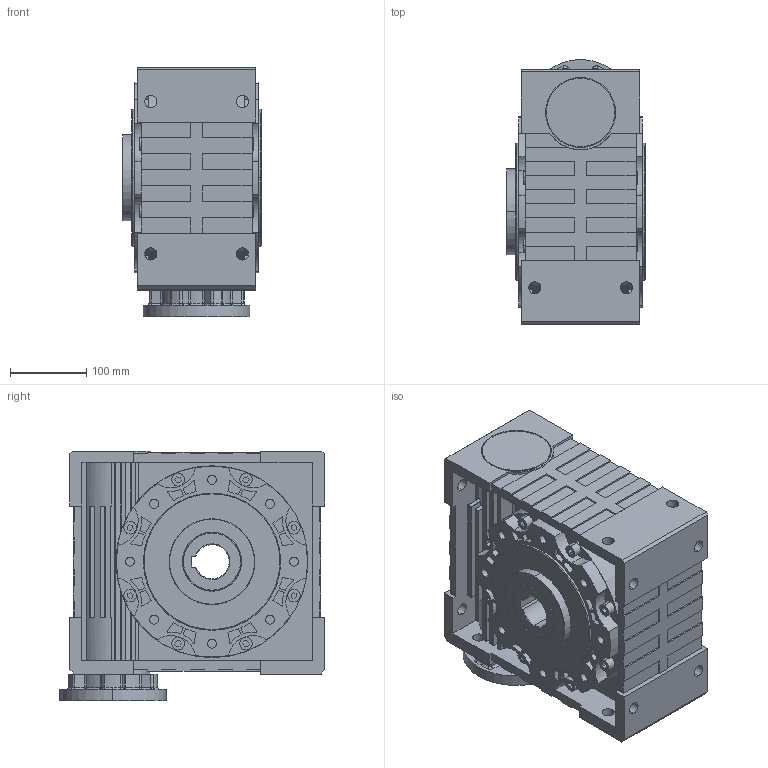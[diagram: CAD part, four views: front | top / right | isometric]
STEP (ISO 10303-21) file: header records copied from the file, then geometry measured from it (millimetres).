
FILE_DESCRIPTION (( 'STEP AP214' ), '1' );
FILE_NAME ('CMRV130-B09.STEP', '2019-08-01T13:59:57', ( '' ), ( '' ), 'SwSTEP 2.0', 'SolidWorks 2012', '' );
FILE_SCHEMA (( 'AUTOMOTIVE_DESIGN' ));
Length unit declared in the file: millimetre
Products named in the file (5): 0201111109002; FCNDK 130火耳; 4_3; 3; CMRV130-B09
Assembly tree (4 placements, depth 2):
  CMRV130-B09
    3
    4_3
    FCNDK 130火耳
    0201111109002
Bounding box: 182 x 347.5 x 327.5 mm (x, y, z)
Volume: 12989776.8 mm3; surface area: 953886.1 mm2
Topology: 4 solids, 5 shells, 1109 faces, 2905 edges, 1894 vertices
Faces by surface type: plane 562, cylinder 470, bspline 45, cone 32
Entity records: 35154 total; most frequent: CARTESIAN_POINT 7041, DIRECTION 5932, ORIENTED_EDGE 5778, EDGE_CURVE 2889, AXIS2_PLACEMENT_3D 2073, VERTEX_POINT 1894, LINE 1786, VECTOR 1786
